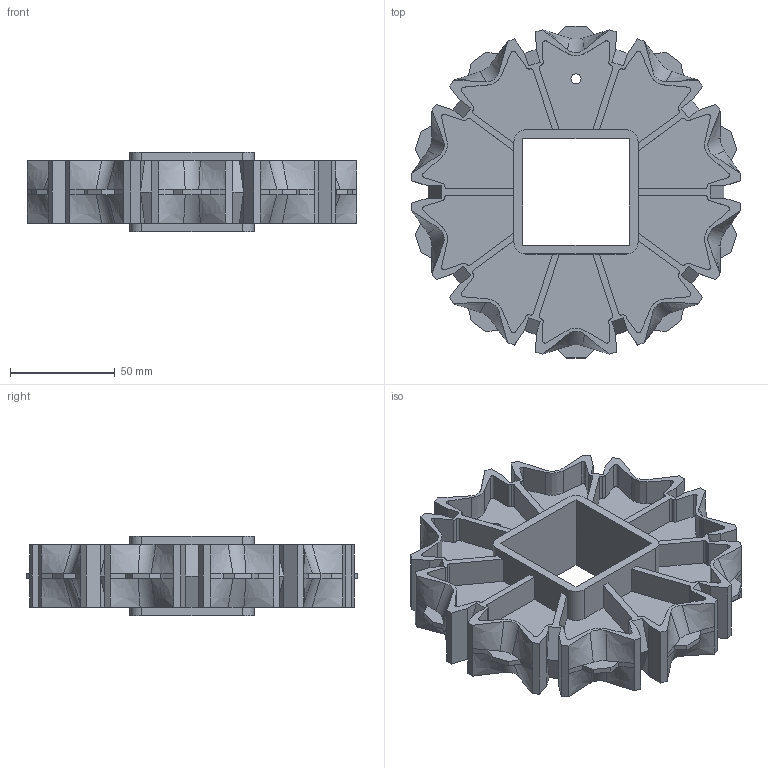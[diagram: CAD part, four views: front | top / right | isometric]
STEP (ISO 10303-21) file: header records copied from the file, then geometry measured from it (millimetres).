
FILE_DESCRIPTION((''),'2;1');
FILE_NAME('S800_SPROCKET_65X2_SQ','2008-12-12T',('jmumphre'),(''),'PRO/ENGINEER BY PARAMETRIC TECHNOLOGY CORPORATION, 2008150','PRO/ENGINEER BY PARAMETRIC TECHNOLOGY CORPORATION, 2008150','');
FILE_SCHEMA(('CONFIG_CONTROL_DESIGN'));
Length unit declared in the file: inch
Products named in the file (1): S800_SPROCKET_65X2_SQ
Bounding box: 156.94 x 158.29 x 38.1 mm (x, y, z)
Volume: 180280.5 mm3; surface area: 96141.3 mm2
Topology: 1 solids, 1 shells, 576 faces, 1636 edges, 1064 vertices
Faces by surface type: plane 366, cylinder 130, bspline 60, extrusion 20
Entity records: 22088 total; most frequent: CARTESIAN_POINT 7196, ORIENTED_EDGE 3272, DIRECTION 2828, EDGE_CURVE 1636, VECTOR 1316, LINE 1296, VERTEX_POINT 1064, AXIS2_PLACEMENT_3D 756
